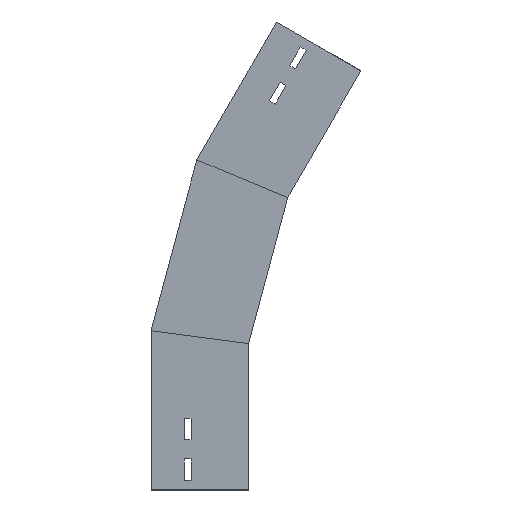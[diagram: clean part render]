
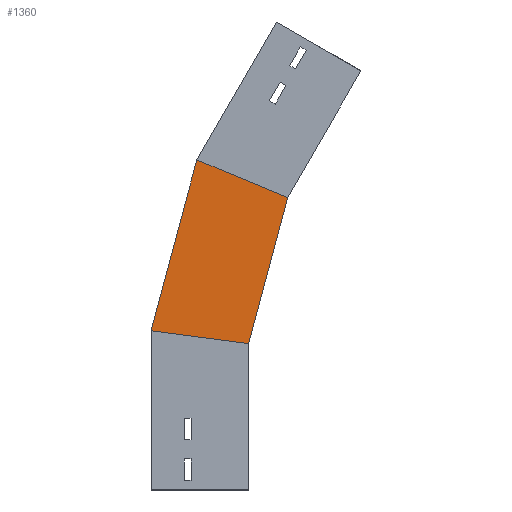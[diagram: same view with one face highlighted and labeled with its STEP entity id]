
A CAD part, left-side view. The second image highlights one B-rep face of the part: STEP entity #1360.
In plain terms, the highlighted planar face has unit normal (-1, 0, 0) as drawn and (1, 0, 0) by its records, which use the part's own axes.
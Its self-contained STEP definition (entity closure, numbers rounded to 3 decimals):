
#123 = CARTESIAN_POINT ( 'NONE',  ( 0., 0., 150. ) ) ;
#144 = CARTESIAN_POINT ( 'NONE',  ( 0., 3.774, 135.915 ) ) ;
#194 = LINE ( 'NONE', #775, #283 ) ;
#203 = VERTEX_POINT ( 'NONE', #605 ) ;
#220 = DIRECTION ( 'NONE',  ( 1., 0., 0. ) ) ;
#283 = VECTOR ( 'NONE', #544, 1000. ) ;
#316 = ORIENTED_EDGE ( 'NONE', *, *, #1213, .F. ) ;
#322 = CARTESIAN_POINT ( 'NONE',  ( 0., -19.411, 147.444 ) ) ;
#398 = VERTEX_POINT ( 'NONE', #713 ) ;
#402 = VERTEX_POINT ( 'NONE', #123 ) ;
#434 = EDGE_CURVE ( 'NONE', #645, #398, #1412, .T. ) ;
#482 = FACE_OUTER_BOUND ( 'NONE', #1382, .T. ) ;
#493 = DIRECTION ( 'NONE',  ( 0., 0., -1. ) ) ;
#540 = CARTESIAN_POINT ( 'NONE',  ( 0., 53.068, 338.317 ) ) ;
#544 = DIRECTION ( 'NONE',  ( 0., -0.259, 0.966 ) ) ;
#546 = ORIENTED_EDGE ( 'NONE', *, *, #570, .F. ) ;
#570 = EDGE_CURVE ( 'NONE', #402, #398, #194, .T. ) ;
#573 = VECTOR ( 'NONE', #872, 1000. ) ;
#605 = CARTESIAN_POINT ( 'NONE',  ( 0., 100., 163.165 ) ) ;
#639 = VECTOR ( 'NONE', #1243, 1000. ) ;
#645 = VERTEX_POINT ( 'NONE', #540 ) ;
#662 = CARTESIAN_POINT ( 'NONE',  ( 0., 100.367, 161.797 ) ) ;
#664 = LINE ( 'NONE', #322, #639 ) ;
#713 = CARTESIAN_POINT ( 'NONE',  ( 0., -40.117, 299.719 ) ) ;
#775 = CARTESIAN_POINT ( 'NONE',  ( 0., 3.774, 135.915 ) ) ;
#837 = PLANE ( 'NONE',  #1459 ) ;
#872 = DIRECTION ( 'NONE',  ( 0., -0.924, -0.383 ) ) ;
#996 = EDGE_CURVE ( 'NONE', #203, #645, #1026, .T. ) ;
#1026 = LINE ( 'NONE', #662, #1376 ) ;
#1156 = ORIENTED_EDGE ( 'NONE', *, *, #434, .T. ) ;
#1213 = EDGE_CURVE ( 'NONE', #203, #402, #664, .T. ) ;
#1243 = DIRECTION ( 'NONE',  ( 0., -0.991, -0.131 ) ) ;
#1297 = CARTESIAN_POINT ( 'NONE',  ( 0., -60.567, 291.248 ) ) ;
#1351 = DIRECTION ( 'NONE',  ( 0., -0.259, 0.966 ) ) ;
#1360 = ADVANCED_FACE ( 'NONE', ( #482 ), #837, .T. ) ;
#1376 = VECTOR ( 'NONE', #1351, 1000. ) ;
#1382 = EDGE_LOOP ( 'NONE', ( #1389, #1156, #546, #316 ) ) ;
#1389 = ORIENTED_EDGE ( 'NONE', *, *, #996, .T. ) ;
#1412 = LINE ( 'NONE', #1297, #573 ) ;
#1459 = AXIS2_PLACEMENT_3D ( 'NONE', #144, #220, #493 ) ;
